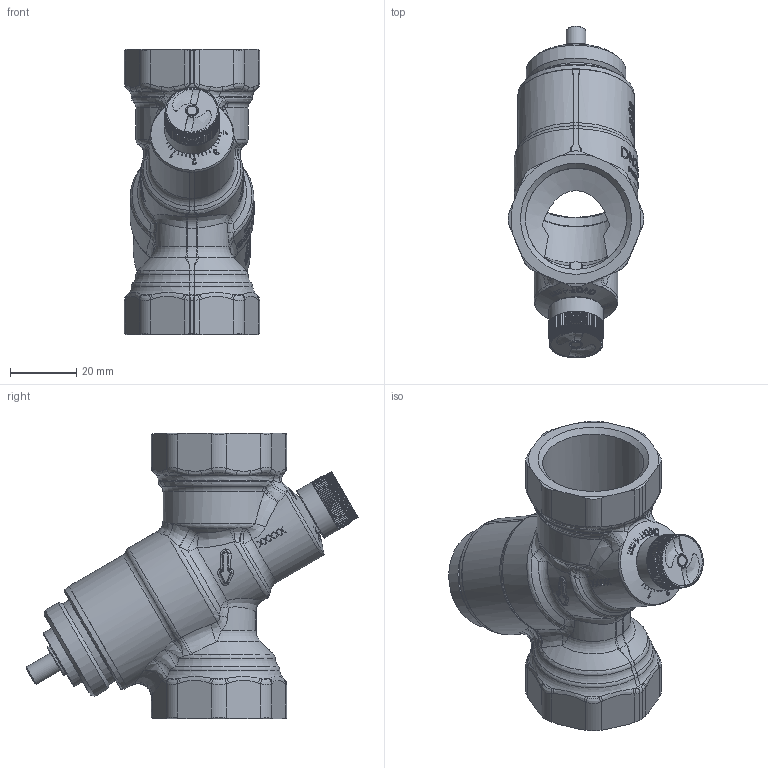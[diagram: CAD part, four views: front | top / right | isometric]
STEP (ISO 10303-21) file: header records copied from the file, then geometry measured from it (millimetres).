
FILE_DESCRIPTION(/* description */ ('Ventil on/off DN25 M/M High'),/* implementation_level */ '2;1');
FILE_NAME(/* name */ 'C:\Users\cbr\Desktop\01-0250.stp',/* time_stamp */ '2019-10-23T10:07:45+02:00',/* author */ ('cbr'),/* organization */ (''),/* preprocessor_version */ 'ST-DEVELOPER v17.2',/* originating_system */ 'Autodesk Inventor 2019',/* authorisation */ '');
FILE_SCHEMA (('AUTOMOTIVE_DESIGN { 1 0 10303 214 3 1 1 }'));
Length unit declared in the file: millimetre
Products named in the file (21): 01-0250; 59776; 901310; 69706; 75609; 68936; 73039-90778; 66591; 66083; 80502; 79168-901310; 73160-901310; 73047; 66592; 80503; 73039-01-02XX; 75315; 67467; 79169; 75612; 91707_01-0250
Assembly tree (22 placements, depth 3):
  01-0250
    59776
    901310
      69706
      75609
      68936
      73039-90778  x2
      66591
      66083
      80502
      79168-901310
      73160-901310
      73047
      66592
      79169
    80503
    73039-01-02XX
    75315
    67467
    79169
    75612
    91707_01-0250
Bounding box: 40.9 x 100.09 x 86.1 mm (x, y, z)
Volume: 49071.6 mm3; surface area: 43902.5 mm2
Topology: 112 solids, 112 shells, 2750 faces, 7253 edges, 4760 vertices
Faces by surface type: plane 1124, bspline 868, cylinder 492, cone 166, torus 86, sphere 14
Full cylindrical faces by diameter (mm): 2 x1, 3 x1, 3.1 x2, 3.2 x2, 3.3 x1, 4 x2, 6 x3, 6.1 x2, 6.2 x5, 6.3 x1, 7 x1, 7.4 x1, 7.5 x2, 8 x1, 9.3 x1, 9.5 x1, 9.6 x2, 10 x3, 11 x2, 11.5 x1, 12 x2, 14.5 x1, 15.6 x1, 16.5 x1, 18.6 x1, 19 x1, 21 x1, 22 x1, 22.3 x1, 23.5 x1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
Entity records: 116055 total; most frequent: CARTESIAN_POINT 52151, ORIENTED_EDGE 14354, DIRECTION 10762, EDGE_CURVE 7177, VERTEX_POINT 4719, AXIS2_PLACEMENT_3D 3706, LINE 3350, VECTOR 3350
